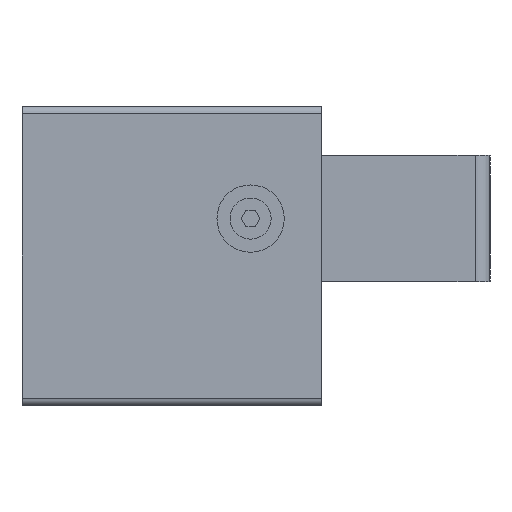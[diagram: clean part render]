
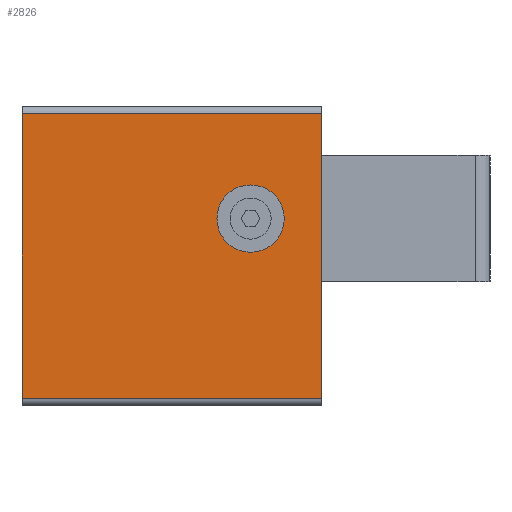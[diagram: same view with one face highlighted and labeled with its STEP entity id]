
A CAD part, left-side view. The second image highlights one B-rep face of the part: STEP entity #2826.
In plain terms, the highlighted planar face has unit normal (-1, 0, 0).
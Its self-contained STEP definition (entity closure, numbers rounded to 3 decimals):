
#108=FACE_BOUND('',#421,.T.);
#237=FACE_OUTER_BOUND('',#420,.T.);
#420=EDGE_LOOP('',(#2408,#2409,#2410,#2411));
#421=EDGE_LOOP('',(#2412));
#593=LINE('',#4440,#862);
#673=LINE('',#4706,#942);
#674=LINE('',#4708,#943);
#675=LINE('',#4709,#944);
#862=VECTOR('',#3604,10.);
#942=VECTOR('',#3848,10.);
#943=VECTOR('',#3849,10.);
#944=VECTOR('',#3850,10.);
#1106=CIRCLE('',#3093,4.5);
#1264=VERTEX_POINT('',#4437);
#1265=VERTEX_POINT('',#4439);
#1327=VERTEX_POINT('',#4646);
#1341=VERTEX_POINT('',#4705);
#1342=VERTEX_POINT('',#4707);
#1591=EDGE_CURVE('',#1265,#1264,#593,.T.);
#1683=EDGE_CURVE('',#1327,#1327,#1106,.T.);
#1711=EDGE_CURVE('',#1264,#1341,#673,.T.);
#1712=EDGE_CURVE('',#1342,#1341,#674,.T.);
#1713=EDGE_CURVE('',#1265,#1342,#675,.T.);
#2408=ORIENTED_EDGE('',*,*,#1591,.T.);
#2409=ORIENTED_EDGE('',*,*,#1711,.T.);
#2410=ORIENTED_EDGE('',*,*,#1712,.F.);
#2411=ORIENTED_EDGE('',*,*,#1713,.F.);
#2412=ORIENTED_EDGE('',*,*,#1683,.T.);
#2674=PLANE('',#3118);
#2826=ADVANCED_FACE('',(#237,#108),#2674,.T.);
#3093=AXIS2_PLACEMENT_3D('',#4647,#3777,#3778);
#3118=AXIS2_PLACEMENT_3D('',#4704,#3846,#3847);
#3604=DIRECTION('',(0.,0.,1.));
#3777=DIRECTION('center_axis',(1.,0.,0.));
#3778=DIRECTION('ref_axis',(0.,0.,-1.));
#3846=DIRECTION('center_axis',(-1.,0.,0.));
#3847=DIRECTION('ref_axis',(0.,0.,1.));
#3848=DIRECTION('',(0.,1.,0.));
#3849=DIRECTION('',(0.,0.,1.));
#3850=DIRECTION('',(0.,1.,0.));
#4437=CARTESIAN_POINT('',(1736.506,0.,-1203.948));
#4439=CARTESIAN_POINT('',(1736.506,0.,-1241.948));
#4440=CARTESIAN_POINT('',(1736.506,0.,-1241.948));
#4646=CARTESIAN_POINT('',(1736.506,9.45,-1213.448));
#4647=CARTESIAN_POINT('Origin',(1736.506,9.45,-1217.948));
#4704=CARTESIAN_POINT('Origin',(1736.506,0.,-1241.948));
#4705=CARTESIAN_POINT('',(1736.506,40.,-1203.948));
#4706=CARTESIAN_POINT('',(1736.506,0.,-1203.948));
#4707=CARTESIAN_POINT('',(1736.506,40.,-1241.948));
#4708=CARTESIAN_POINT('',(1736.506,40.,-1241.948));
#4709=CARTESIAN_POINT('',(1736.506,0.,-1241.948));
